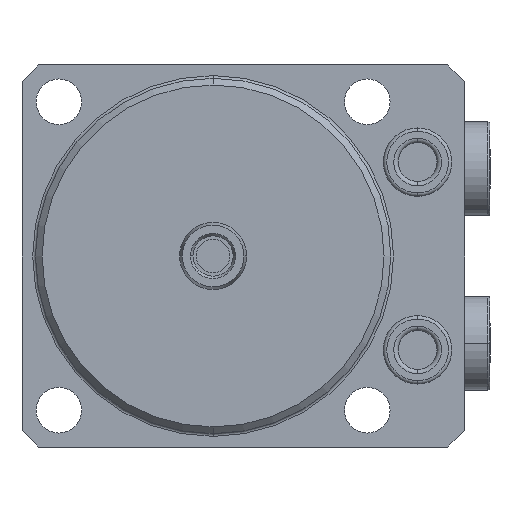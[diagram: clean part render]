
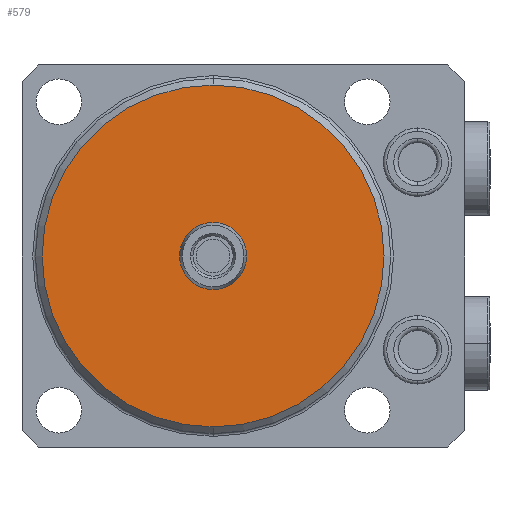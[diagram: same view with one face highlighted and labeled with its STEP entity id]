
A CAD part, front view. The second image highlights one B-rep face of the part: STEP entity #579.
In plain terms, the highlighted planar face has unit normal (0, -1, 0) as drawn and (0, 1, 0) by its records, which use the part's own axes.
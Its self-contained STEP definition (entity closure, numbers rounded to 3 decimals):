
#188=PLANE('',#4830);
#292=FACE_BOUND('',#1127,.F.);
#293=FACE_BOUND('',#1128,.F.);
#579=ADVANCED_FACE('',(#292,#293),#188,.T.);
#1127=EDGE_LOOP('',(#2329,#2330));
#1128=EDGE_LOOP('',(#2331,#2332));
#2329=ORIENTED_EDGE('',*,*,#3929,.T.);
#2330=ORIENTED_EDGE('',*,*,#3749,.T.);
#2331=ORIENTED_EDGE('',*,*,#3930,.T.);
#2332=ORIENTED_EDGE('',*,*,#3837,.T.);
#3305=VERTEX_POINT('',#6883);
#3306=VERTEX_POINT('',#6884);
#3377=VERTEX_POINT('',#7071);
#3378=VERTEX_POINT('',#7072);
#3749=EDGE_CURVE('',#3305,#3306,#4363,.T.);
#3837=EDGE_CURVE('',#3377,#3378,#4418,.T.);
#3929=EDGE_CURVE('',#3306,#3305,#4437,.T.);
#3930=EDGE_CURVE('',#3378,#3377,#4438,.T.);
#4363=CIRCLE('',#4715,5.);
#4418=CIRCLE('',#4793,25.5);
#4437=CIRCLE('',#4828,5.);
#4438=CIRCLE('',#4829,25.5);
#4715=AXIS2_PLACEMENT_3D('',#6882,#5425,#5426);
#4793=AXIS2_PLACEMENT_3D('',#7070,#5613,#5614);
#4828=AXIS2_PLACEMENT_3D('',#7334,#5732,#5733);
#4829=AXIS2_PLACEMENT_3D('',#7335,#5734,#5735);
#4830=AXIS2_PLACEMENT_3D('',#7336,#5736,#5737);
#5425=DIRECTION('',(0.,1.,0.));
#5426=DIRECTION('',(0.,0.,1.));
#5613=DIRECTION('',(0.,-1.,0.));
#5614=DIRECTION('',(0.,0.,1.));
#5732=DIRECTION('',(0.,1.,0.));
#5733=DIRECTION('',(0.,0.,1.));
#5734=DIRECTION('',(0.,-1.,0.));
#5735=DIRECTION('',(0.,0.,1.));
#5736=DIRECTION('',(0.,1.,0.));
#5737=DIRECTION('',(0.,0.,1.));
#6882=CARTESIAN_POINT('',(0.,-42.5,0.));
#6883=CARTESIAN_POINT('',(0.,-42.5,-5.));
#6884=CARTESIAN_POINT('',(0.,-42.5,5.));
#7070=CARTESIAN_POINT('',(0.,-42.5,0.));
#7071=CARTESIAN_POINT('',(0.,-42.5,-25.5));
#7072=CARTESIAN_POINT('',(0.,-42.5,25.5));
#7334=CARTESIAN_POINT('',(0.,-42.5,0.));
#7335=CARTESIAN_POINT('',(0.,-42.5,0.));
#7336=CARTESIAN_POINT('',(0.,-42.5,0.));
